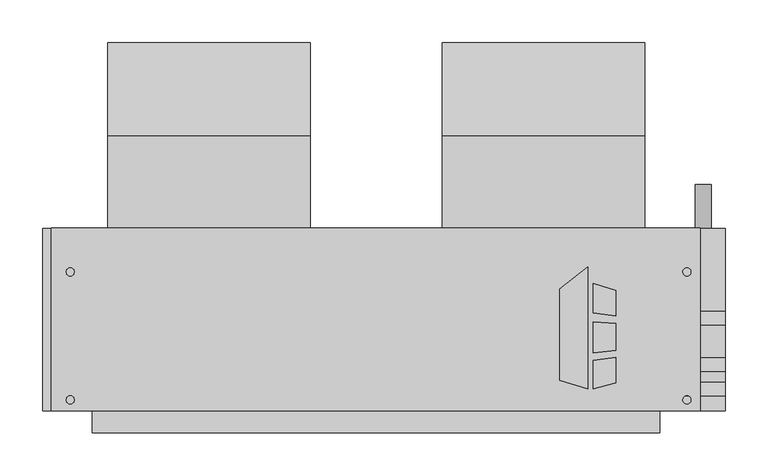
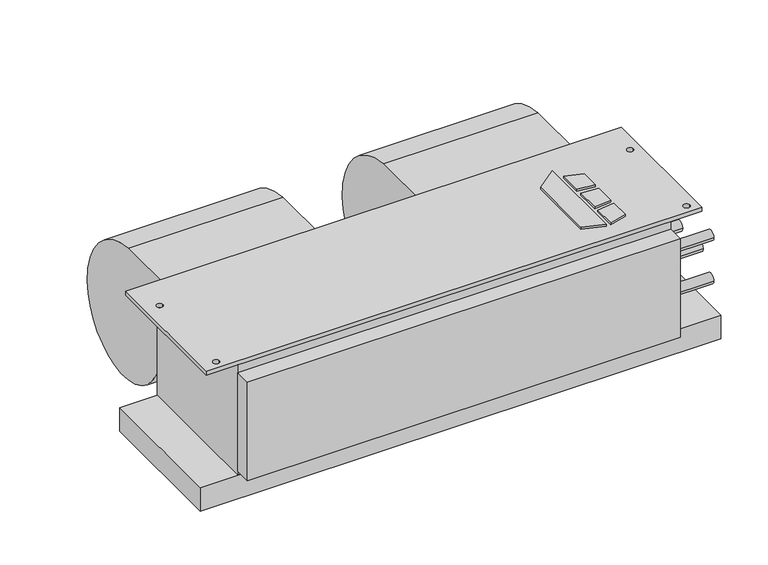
"""IFC4 building model written with IfcOpenShell, lengths in millimetres: proxy geometry, Concealed_Horizontal_Fan_Coil_Unit_-_CHY_-_IEC_-_4-Pipe_RH_2022 : Size 04 - 277v/60Hz/1Ph - 4/1 Coil."""

from ifc_helpers import new_model, si_unit, point, frame, frame_2d, origin, origin_with_axes, place, context, project, spatial, polyline, circle_curve, trimmed, segment, composite_curve, outline, extrude, source, transform, mapped, element, save


def mechanical_equipment_a1381dee(model_context):
    return source(origin(), model_context, "Body", "SweptSolid", [
        extrude(outline(polyline([(366.4019761, -202.5703476), (398.9602728, -177.1330184), (398.9602728, -319.0875), (366.4019761, -308.8679201), (366.4019761, -202.5703476)])), origin_with_axes(), (0.0, 0.0, 1.0), 3.175),
        extrude(outline(polyline([(405.7186058, -230.442352), (405.7186058, -195.9624379), (431.8, -204.1490115), (431.8, -233.6447446), (405.7186058, -230.442352)])), origin_with_axes(), (0.0, 0.0, 1.0), 3.175),
        extrude(outline(polyline([(431.8, -312.0990115), (405.7186058, -319.0875), (405.7186058, -285.8661996), (431.8, -282.3243564), (431.8, -312.0990115)])), origin_with_axes(), (0.0, 0.0, 1.0), 3.175),
        extrude(outline(polyline([(431.8, -242.7263277), (431.8, -273.976483), (405.7186058, -276.717748), (405.7186058, -240.8600378), (431.8, -242.7263277)])), origin_with_axes(), (0.0, 0.0, 1.0), 3.175),
        extrude(outline(composite_curve([segment(trimmed(circle_curve(frame_2d((-33.198831, -136.0299844)), 117.3559541), [point((-23.8125, -19.05))], [point((84.1375, -138.176))], False, "CARTESIAN"), True, "CONTINUOUS"), segment(trimmed(circle_curve(frame_2d((-11.5977337, -136.4250563)), 95.7512443), [point((84.1375, -138.176))], [point((-23.8125, -231.394))], False, "CARTESIAN"), True, "CONTINUOUS"), segment(trimmed(circle_curve(frame_2d((-11.6288131, -136.6666968)), 95.5076133), [point((-23.8125, -231.394))], [point((-107.1245, -138.176))], False, "CARTESIAN"), True, "CONTINUOUS"), segment(trimmed(circle_curve(frame_2d((-126.2059828, -138.4775816)), 19.0838659), [point((-107.1245, -138.176))], [point((-119.3963373, -120.65))], True, "CARTESIAN"), True, "CONTINUOUS"), segment(polyline([(-119.3963373, -120.65), (-131.7625, -120.65), (-131.7625, -19.05), (-23.8125, -19.05)]), True, "CONTINUOUS")], self_intersect=False)), frame((229.4255, 0.0, 0.0), z_axis=(1.0, 0.0, 0.0), x_axis=(0.0, 1.0, 0.0)), (0.0, 0.0, 1.0), 235.712),
        extrude(outline(composite_curve([segment(trimmed(circle_curve(frame_2d((-33.198831, -136.0299844)), 117.3559541), [point((-23.8125, -19.05))], [point((84.1375, -138.176))], False, "CARTESIAN"), True, "CONTINUOUS"), segment(trimmed(circle_curve(frame_2d((-11.5977337, -136.4250563)), 95.7512443), [point((84.1375, -138.176))], [point((-23.8125, -231.394))], False, "CARTESIAN"), True, "CONTINUOUS"), segment(trimmed(circle_curve(frame_2d((-11.6288131, -136.6666968)), 95.5076133), [point((-23.8125, -231.394))], [point((-107.1245, -138.176))], False, "CARTESIAN"), True, "CONTINUOUS"), segment(trimmed(circle_curve(frame_2d((-126.2059828, -138.4775816)), 19.0838659), [point((-107.1245, -138.176))], [point((-119.3963373, -120.65))], True, "CARTESIAN"), True, "CONTINUOUS"), segment(polyline([(-119.3963373, -120.65), (-131.7625, -120.65), (-131.7625, -19.05), (-23.8125, -19.05)]), True, "CONTINUOUS")], self_intersect=False)), frame((-159.512, 0.0, 0.0), z_axis=(1.0, 0.0, 0.0), x_axis=(0.0, 1.0, 0.0)), (0.0, 0.0, 1.0), 235.712),
        extrude(outline(polyline([(530.225, -131.7625), (530.225, -344.4875), (-225.425, -344.4875), (-225.425, -131.7625), (530.225, -131.7625)]), holes=[composite_curve([segment(trimmed(circle_curve(frame_2d((-203.2, -182.5625)), 4.7625), [point((-207.9625, -182.5625))], [point((-198.4375, -182.5625))], True, "CARTESIAN"), True, "CONTINUOUS"), segment(trimmed(circle_curve(frame_2d((-203.2, -182.5625)), 4.7625), [point((-198.4375, -182.5625))], [point((-207.9625, -182.5625))], True, "CARTESIAN"), True, "CONTINUOUS")], self_intersect=False), composite_curve([segment(trimmed(circle_curve(frame_2d((-203.2, -331.7875)), 4.7625), [point((-207.9625, -331.7875))], [point((-198.4375, -331.7875))], True, "CARTESIAN"), True, "CONTINUOUS"), segment(trimmed(circle_curve(frame_2d((-203.2, -331.7875)), 4.7625), [point((-198.4375, -331.7875))], [point((-207.9625, -331.7875))], True, "CARTESIAN"), True, "CONTINUOUS")], self_intersect=False), composite_curve([segment(trimmed(circle_curve(frame_2d((514.35, -182.5625)), 4.7625), [point((509.5875, -182.5625))], [point((519.1125, -182.5625))], True, "CARTESIAN"), True, "CONTINUOUS"), segment(trimmed(circle_curve(frame_2d((514.35, -182.5625)), 4.7625), [point((519.1125, -182.5625))], [point((509.5875, -182.5625))], True, "CARTESIAN"), True, "CONTINUOUS")], self_intersect=False), composite_curve([segment(trimmed(circle_curve(frame_2d((514.35, -331.7875)), 4.7625), [point((509.5875, -331.7875))], [point((519.1125, -331.7875))], True, "CARTESIAN"), True, "CONTINUOUS"), segment(trimmed(circle_curve(frame_2d((514.35, -331.7875)), 4.7625), [point((519.1125, -331.7875))], [point((509.5875, -331.7875))], True, "CARTESIAN"), True, "CONTINUOUS")], self_intersect=False)]), frame((0.0, 0.0, -6.35), z_axis=(0.0, 0.0, 1.0), x_axis=(1.0, 0.0, 0.0)), (0.0, 0.0, 1.0), 6.35),
        extrude(outline(composite_curve([segment(trimmed(circle_curve(frame_2d((-209.55, 533.4)), 9.525), [point((-209.55, 523.875))], [point((-209.55, 542.925))], False, "CARTESIAN"), True, "CONTINUOUS"), segment(trimmed(circle_curve(frame_2d((-209.55, 533.4)), 9.525), [point((-209.55, 542.925))], [point((-209.55, 523.875))], False, "CARTESIAN"), True, "CONTINUOUS")], self_intersect=False)), frame((0.0, -131.7625, 0.0), z_axis=(0.0, 1.0, 0.0), x_axis=(0.0, 0.0, 1.0)), (0.0, 0.0, 1.0), 50.8),
        extrude(outline(polyline([(482.6, -369.8875), (-177.8, -369.8875), (-177.8, -344.4875), (482.6, -344.4875), (482.6, -369.8875)])), frame((0.0, 0.0, -177.8), z_axis=(0.0, 0.0, 1.0), x_axis=(1.0, 0.0, 0.0)), (0.0, 0.0, 1.0), 158.75),
        extrude(outline(polyline([(558.8, -131.7625), (558.8, -344.4875), (-234.95, -344.4875), (-234.95, -131.7625), (558.8, -131.7625)])), frame((0.0, 0.0, -222.25), z_axis=(0.0, 0.0, 1.0), x_axis=(1.0, 0.0, 0.0)), (0.0, 0.0, 1.0), 38.1),
        extrude(outline(composite_curve([segment(trimmed(circle_curve(frame_2d((-236.5375, -104.775)), 7.9375), [point((-244.475, -104.775))], [point((-228.6, -104.775))], False, "CARTESIAN"), True, "CONTINUOUS"), segment(trimmed(circle_curve(frame_2d((-236.5375, -104.775)), 7.9375), [point((-228.6, -104.775))], [point((-244.475, -104.775))], False, "CARTESIAN"), True, "CONTINUOUS")], self_intersect=False)), frame((482.6, 0.0, 0.0), z_axis=(1.0, 0.0, 0.0), x_axis=(0.0, 1.0, 0.0)), (0.0, 0.0, 1.0), 76.2),
        extrude(outline(composite_curve([segment(trimmed(circle_curve(frame_2d((-290.5125, -104.775)), 7.9375), [point((-298.45, -104.775))], [point((-282.575, -104.775))], False, "CARTESIAN"), True, "CONTINUOUS"), segment(trimmed(circle_curve(frame_2d((-290.5125, -104.775)), 7.9375), [point((-282.575, -104.775))], [point((-298.45, -104.775))], False, "CARTESIAN"), True, "CONTINUOUS")], self_intersect=False)), frame((482.6, 0.0, 0.0), z_axis=(1.0, 0.0, 0.0), x_axis=(0.0, 1.0, 0.0)), (0.0, 0.0, 1.0), 76.2),
        extrude(outline(composite_curve([segment(trimmed(circle_curve(frame_2d((-319.0875, -69.85)), 7.9375), [point((-327.025, -69.85))], [point((-311.15, -69.85))], False, "CARTESIAN"), True, "CONTINUOUS"), segment(trimmed(circle_curve(frame_2d((-319.0875, -69.85)), 7.9375), [point((-311.15, -69.85))], [point((-327.025, -69.85))], False, "CARTESIAN"), True, "CONTINUOUS")], self_intersect=False)), frame((482.6, 0.0, 0.0), z_axis=(1.0, 0.0, 0.0), x_axis=(0.0, 1.0, 0.0)), (0.0, 0.0, 1.0), 76.2),
        extrude(outline(composite_curve([segment(trimmed(circle_curve(frame_2d((-319.0875, -139.7)), 7.9375), [point((-327.025, -139.7))], [point((-311.15, -139.7))], False, "CARTESIAN"), True, "CONTINUOUS"), segment(trimmed(circle_curve(frame_2d((-319.0875, -139.7)), 7.9375), [point((-311.15, -139.7))], [point((-327.025, -139.7))], False, "CARTESIAN"), True, "CONTINUOUS")], self_intersect=False)), frame((482.6, 0.0, 0.0), z_axis=(1.0, 0.0, 0.0), x_axis=(0.0, 1.0, 0.0)), (0.0, 0.0, 1.0), 76.2),
        extrude(outline(polyline([(482.6, -344.4875), (-177.8, -344.4875), (-177.8, -131.7625), (482.6, -131.7625), (482.6, -344.4875)])), frame((0.0, 0.0, -184.15), z_axis=(0.0, 0.0, 1.0), x_axis=(1.0, 0.0, 0.0)), (0.0, 0.0, 1.0), 177.8),
    ])


if __name__ == "__main__":
    model = new_model("IFC4")
    model_context = context("Model", 3, world=origin())
    ifc_project = project(units=[si_unit("LENGTHUNIT", "METRE", prefix="MILLI")], contexts=[model_context])
    site = spatial("IfcSite", under=ifc_project)
    building = spatial("IfcBuilding", under=site)
    placement = place(None, origin())
    mechanical_equipment_shape = mechanical_equipment_a1381dee(model_context)
    element("IfcBuildingElementProxy", 1, Name="Concealed_Horizontal_Fan_Coil_Unit_-_CHY_-_IEC_-_4-Pipe_RH_2022 : Size 04 - 277v/60Hz/1Ph - 4/1 Coil", ObjectType="Concealed_Horizontal_Fan_Coil_Unit_-_CHY_-_IEC_-_4-Pipe_RH_2022 : Size 04 - 277v/60Hz/1Ph - 4/1 Coil", at=placement, inside=building, context=model_context, shape_type="MappedRepresentation", body=[
        mapped(mechanical_equipment_shape, transform((0.0, 0.0, 0.0), x_axis=(1.0, 0.0, 0.0), y_axis=(0.0, 1.0, 0.0), z_axis=(0.0, 0.0, 1.0))),
    ])
    save(model, "model.ifc")
